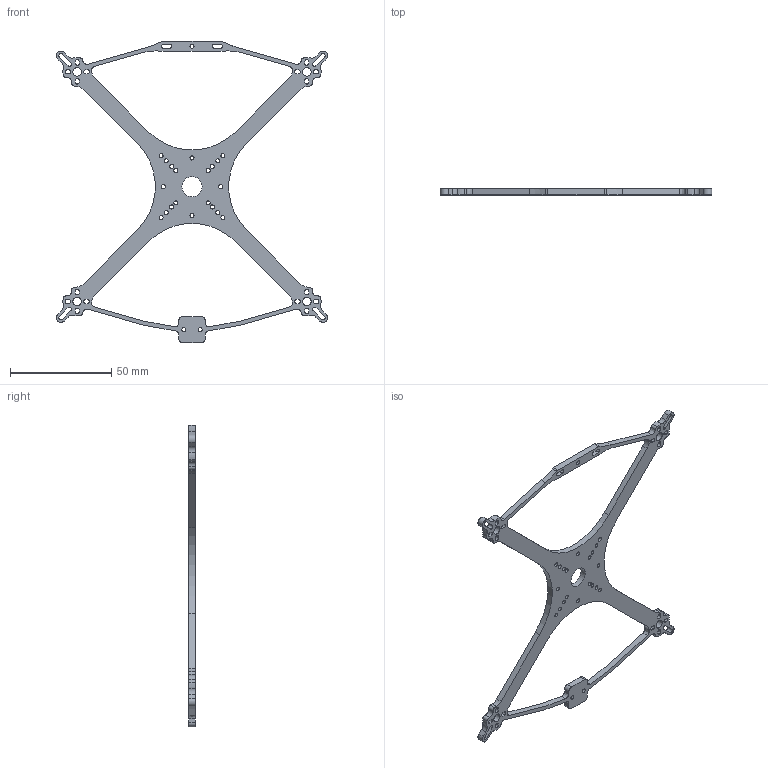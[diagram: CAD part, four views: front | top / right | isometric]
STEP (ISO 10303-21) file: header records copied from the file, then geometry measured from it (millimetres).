
FILE_DESCRIPTION(/* description */ (''),/* implementation_level */ '2;1');
FILE_NAME(/* name */ 'Carbon Frame.step',/* time_stamp */ '2024-07-20T22:27:27+02:00',/* author */ (''),/* organization */ (''),/* preprocessor_version */ 'ST-DEVELOPER v20',/* originating_system */ 'Autodesk Translation Framework v13.14.0.145',/* authorisation */ '');
FILE_SCHEMA (('AUTOMOTIVE_DESIGN { 1 0 10303 214 3 1 1 }'));
Length unit declared in the file: millimetre
Products named in the file (1): Carbon Frame
Bounding box: 133.7 x 3 x 148.72 mm (x, y, z)
Volume: 12164.7 mm3; surface area: 12819.5 mm2
Topology: 1 solids, 1 shells, 262 faces, 780 edges, 520 vertices
Faces by surface type: cylinder 168, plane 70, bspline 24
Full cylindrical faces by diameter (mm): 2 x23, 4.25 x4, 10 x1
Entity records: 9878 total; most frequent: CARTESIAN_POINT 2497, ORIENTED_EDGE 1560, DIRECTION 1514, EDGE_CURVE 780, AXIS2_PLACEMENT_3D 575, VERTEX_POINT 520, EDGE_LOOP 366, LINE 364
